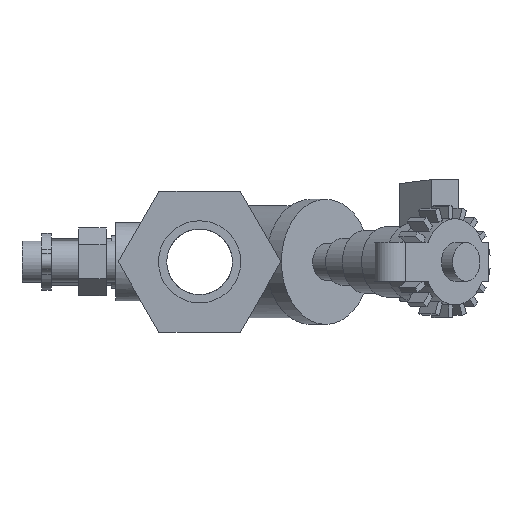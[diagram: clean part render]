
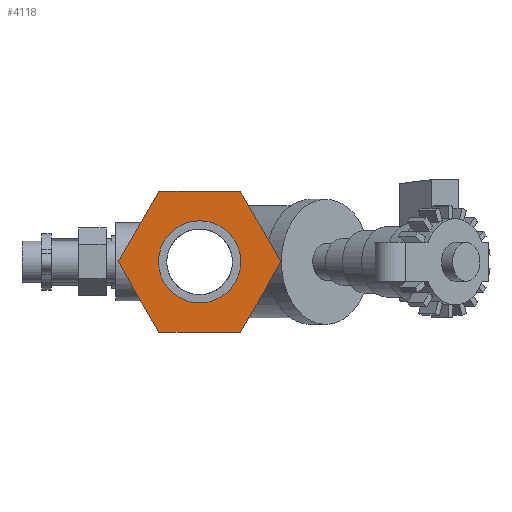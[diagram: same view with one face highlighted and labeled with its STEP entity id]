
A CAD part, left-side view. The second image highlights one B-rep face of the part: STEP entity #4118.
In plain terms, the highlighted planar face has unit normal (-1, 0, 0).
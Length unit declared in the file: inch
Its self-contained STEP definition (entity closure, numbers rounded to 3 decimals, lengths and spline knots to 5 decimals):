
#57=FACE_BOUND('',#467,.T.);
#225=FACE_OUTER_BOUND('',#466,.T.);
#466=EDGE_LOOP('',(#2812,#2813,#2814,#2815,#2816,#2817));
#467=EDGE_LOOP('',(#2818));
#746=CIRCLE('',#4417,0.5255);
#946=LINE('',#6708,#1311);
#947=LINE('',#6710,#1312);
#948=LINE('',#6712,#1313);
#949=LINE('',#6714,#1314);
#950=LINE('',#6716,#1315);
#951=LINE('',#6717,#1316);
#1311=VECTOR('',#4983,0.3937);
#1312=VECTOR('',#4984,0.3937);
#1313=VECTOR('',#4985,0.3937);
#1314=VECTOR('',#4986,0.3937);
#1315=VECTOR('',#4987,0.3937);
#1316=VECTOR('',#4988,0.3937);
#1713=VERTEX_POINT('',#6706);
#1714=VERTEX_POINT('',#6707);
#1715=VERTEX_POINT('',#6709);
#1716=VERTEX_POINT('',#6711);
#1717=VERTEX_POINT('',#6713);
#1718=VERTEX_POINT('',#6715);
#1719=VERTEX_POINT('',#6718);
#2145=EDGE_CURVE('',#1713,#1714,#946,.T.);
#2146=EDGE_CURVE('',#1714,#1715,#947,.T.);
#2147=EDGE_CURVE('',#1715,#1716,#948,.T.);
#2148=EDGE_CURVE('',#1716,#1717,#949,.T.);
#2149=EDGE_CURVE('',#1717,#1718,#950,.T.);
#2150=EDGE_CURVE('',#1718,#1713,#951,.T.);
#2151=EDGE_CURVE('',#1719,#1719,#746,.T.);
#2812=ORIENTED_EDGE('',*,*,#2145,.T.);
#2813=ORIENTED_EDGE('',*,*,#2146,.T.);
#2814=ORIENTED_EDGE('',*,*,#2147,.T.);
#2815=ORIENTED_EDGE('',*,*,#2148,.T.);
#2816=ORIENTED_EDGE('',*,*,#2149,.T.);
#2817=ORIENTED_EDGE('',*,*,#2150,.T.);
#2818=ORIENTED_EDGE('',*,*,#2151,.F.);
#3832=PLANE('',#4416);
#4118=ADVANCED_FACE('',(#225,#57),#3832,.T.);
#4416=AXIS2_PLACEMENT_3D('',#6705,#4981,#4982);
#4417=AXIS2_PLACEMENT_3D('',#6719,#4989,#4990);
#4981=DIRECTION('center_axis',(-1.,0.,0.));
#4982=DIRECTION('ref_axis',(0.,0.,1.));
#4983=DIRECTION('',(0.,1.,0.));
#4984=DIRECTION('',(0.,0.5,-0.866));
#4985=DIRECTION('',(0.,-0.5,-0.866));
#4986=DIRECTION('',(0.,-1.,0.));
#4987=DIRECTION('',(0.,-0.5,0.866));
#4988=DIRECTION('',(0.,0.5,0.866));
#4989=DIRECTION('center_axis',(-1.,0.,0.));
#4990=DIRECTION('ref_axis',(0.,1.,0.));
#6705=CARTESIAN_POINT('Origin',(-2.78,0.,0.));
#6706=CARTESIAN_POINT('',(-2.78,-0.51962,0.9));
#6707=CARTESIAN_POINT('',(-2.78,0.51962,0.9));
#6708=CARTESIAN_POINT('',(-2.78,0.51962,0.9));
#6709=CARTESIAN_POINT('',(-2.78,1.03923,0.));
#6710=CARTESIAN_POINT('',(-2.78,1.03923,0.));
#6711=CARTESIAN_POINT('',(-2.78,0.51962,-0.9));
#6712=CARTESIAN_POINT('',(-2.78,0.51962,-0.9));
#6713=CARTESIAN_POINT('',(-2.78,-0.51962,-0.9));
#6714=CARTESIAN_POINT('',(-2.78,-0.51962,-0.9));
#6715=CARTESIAN_POINT('',(-2.78,-1.03923,0.));
#6716=CARTESIAN_POINT('',(-2.78,-1.03923,0.));
#6717=CARTESIAN_POINT('',(-2.78,-0.51962,0.9));
#6718=CARTESIAN_POINT('',(-2.78,-0.5255,0.));
#6719=CARTESIAN_POINT('Origin',(-2.78,0.,0.));
